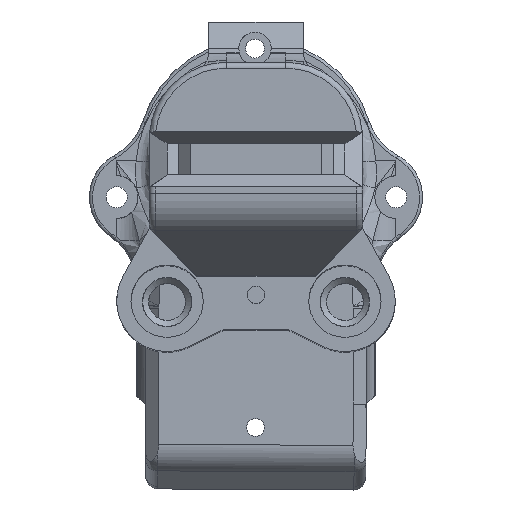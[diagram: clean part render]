
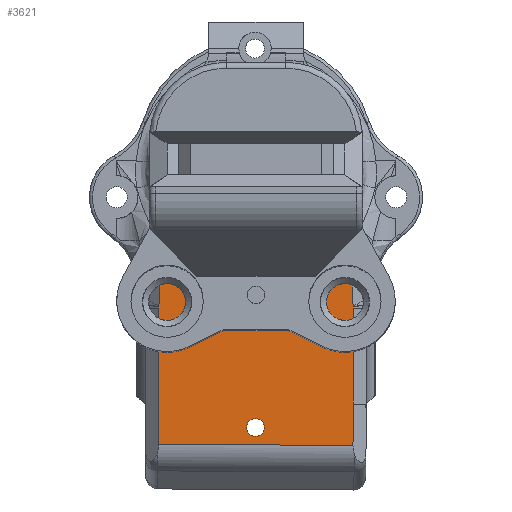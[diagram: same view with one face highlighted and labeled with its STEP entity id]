
A CAD part, top view. The second image highlights one B-rep face of the part: STEP entity #3621.
In plain terms, the highlighted planar face has unit normal (0, 0, 1).
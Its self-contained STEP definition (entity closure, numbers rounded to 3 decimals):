
#112=FACE_BOUND('',#821,.T.);
#175=B_SPLINE_CURVE_WITH_KNOTS('',3,(#6398,#6399,#6400,#6401),
 .UNSPECIFIED.,.F.,.F.,(4,4),(-0.044,-0.042),
 .UNSPECIFIED.);
#177=B_SPLINE_CURVE_WITH_KNOTS('',3,(#6423,#6424,#6425,#6426),
 .UNSPECIFIED.,.F.,.F.,(4,4),(-0.694,-0.651),
 .UNSPECIFIED.);
#180=B_SPLINE_CURVE_WITH_KNOTS('',3,(#6466,#6467,#6468,#6469),
 .UNSPECIFIED.,.F.,.F.,(4,4),(-0.651,-0.65),
 .UNSPECIFIED.);
#182=B_SPLINE_CURVE_WITH_KNOTS('',3,(#6493,#6494,#6495,#6496),
 .UNSPECIFIED.,.F.,.F.,(4,4),(-0.65,-0.647),
 .UNSPECIFIED.);
#186=B_SPLINE_CURVE_WITH_KNOTS('',3,(#6532,#6533,#6534,#6535),
 .UNSPECIFIED.,.F.,.F.,(4,4),(-0.042,0.),
 .UNSPECIFIED.);
#188=B_SPLINE_CURVE_WITH_KNOTS('',3,(#6556,#6557,#6558,#6559),
 .UNSPECIFIED.,.F.,.F.,(4,4),(-0.047,-0.044),
 .UNSPECIFIED.);
#328=CIRCLE('',#3819,1.5);
#586=FACE_OUTER_BOUND('',#820,.T.);
#820=EDGE_LOOP('',(#3069,#3070,#3071,#3072,#3073,#3074,#3075,#3076,#3077,
#3078,#3079,#3080,#3081,#3082,#3083,#3084,#3085));
#821=EDGE_LOOP('',(#3086));
#951=LINE('',#5216,#1210);
#1035=LINE('',#5697,#1294);
#1038=LINE('',#5717,#1297);
#1088=LINE('',#6062,#1347);
#1091=LINE('',#6068,#1350);
#1092=LINE('',#6101,#1351);
#1094=LINE('',#6105,#1353);
#1108=LINE('',#6431,#1367);
#1111=LINE('',#6448,#1370);
#1113=LINE('',#6509,#1372);
#1126=LINE('',#6928,#1385);
#1210=VECTOR('',#4181,10.);
#1294=VECTOR('',#4415,10.);
#1297=VECTOR('',#4426,10.);
#1347=VECTOR('',#4620,10.);
#1350=VECTOR('',#4625,10.);
#1351=VECTOR('',#4626,10.);
#1353=VECTOR('',#4630,10.);
#1367=VECTOR('',#4702,10.);
#1370=VECTOR('',#4707,10.);
#1372=VECTOR('',#4711,10.);
#1385=VECTOR('',#4798,10.);
#1474=VERTEX_POINT('',#5213);
#1475=VERTEX_POINT('',#5215);
#1559=VERTEX_POINT('',#5696);
#1564=VERTEX_POINT('',#5716);
#1565=VERTEX_POINT('',#5720);
#1636=VERTEX_POINT('',#6059);
#1637=VERTEX_POINT('',#6061);
#1638=VERTEX_POINT('',#6065);
#1639=VERTEX_POINT('',#6067);
#1641=VERTEX_POINT('',#6086);
#1642=VERTEX_POINT('',#6103);
#1672=VERTEX_POINT('',#6386);
#1674=VERTEX_POINT('',#6396);
#1675=VERTEX_POINT('',#6418);
#1677=VERTEX_POINT('',#6430);
#1680=VERTEX_POINT('',#6446);
#1681=VERTEX_POINT('',#6465);
#1683=VERTEX_POINT('',#6492);
#1830=EDGE_CURVE('',#1474,#1475,#951,.T.);
#1962=EDGE_CURVE('',#1475,#1559,#1035,.T.);
#1969=EDGE_CURVE('',#1559,#1564,#1038,.T.);
#1971=EDGE_CURVE('',#1565,#1565,#328,.T.);
#2074=EDGE_CURVE('',#1637,#1636,#1088,.T.);
#2077=EDGE_CURVE('',#1639,#1638,#1091,.T.);
#2080=EDGE_CURVE('',#1636,#1641,#1092,.T.);
#2082=EDGE_CURVE('',#1642,#1638,#1094,.F.);
#2128=EDGE_CURVE('',#1674,#1672,#175,.T.);
#2130=EDGE_CURVE('',#1564,#1675,#177,.T.);
#2132=EDGE_CURVE('',#1637,#1677,#1108,.T.);
#2137=EDGE_CURVE('',#1680,#1474,#1111,.T.);
#2138=EDGE_CURVE('',#1675,#1681,#180,.T.);
#2141=EDGE_CURVE('',#1681,#1683,#182,.T.);
#2144=EDGE_CURVE('',#1683,#1642,#1113,.T.);
#2147=EDGE_CURVE('',#1672,#1680,#186,.T.);
#2149=EDGE_CURVE('',#1677,#1674,#188,.T.);
#2191=EDGE_CURVE('',#1641,#1639,#1126,.T.);
#3069=ORIENTED_EDGE('',*,*,#1962,.F.);
#3070=ORIENTED_EDGE('',*,*,#1830,.F.);
#3071=ORIENTED_EDGE('',*,*,#2137,.F.);
#3072=ORIENTED_EDGE('',*,*,#2147,.F.);
#3073=ORIENTED_EDGE('',*,*,#2128,.F.);
#3074=ORIENTED_EDGE('',*,*,#2149,.F.);
#3075=ORIENTED_EDGE('',*,*,#2132,.F.);
#3076=ORIENTED_EDGE('',*,*,#2074,.T.);
#3077=ORIENTED_EDGE('',*,*,#2080,.T.);
#3078=ORIENTED_EDGE('',*,*,#2191,.T.);
#3079=ORIENTED_EDGE('',*,*,#2077,.T.);
#3080=ORIENTED_EDGE('',*,*,#2082,.F.);
#3081=ORIENTED_EDGE('',*,*,#2144,.F.);
#3082=ORIENTED_EDGE('',*,*,#2141,.F.);
#3083=ORIENTED_EDGE('',*,*,#2138,.F.);
#3084=ORIENTED_EDGE('',*,*,#2130,.F.);
#3085=ORIENTED_EDGE('',*,*,#1969,.F.);
#3086=ORIENTED_EDGE('',*,*,#1971,.T.);
#3458=PLANE('',#3959);
#3621=ADVANCED_FACE('',(#586,#112),#3458,.T.);
#3819=AXIS2_PLACEMENT_3D('',#5721,#4430,#4431);
#3959=AXIS2_PLACEMENT_3D('',#6927,#4796,#4797);
#4181=DIRECTION('',(-0.006,-1.,0.));
#4415=DIRECTION('',(-1.,0.006,0.));
#4426=DIRECTION('',(0.,1.,0.));
#4430=DIRECTION('center_axis',(0.,0.,
-1.));
#4431=DIRECTION('ref_axis',(-1.,0.,0.));
#4620=DIRECTION('',(-0.707,-0.707,0.));
#4625=DIRECTION('',(-1.,0.,0.));
#4626=DIRECTION('',(-1.,0.,0.));
#4630=DIRECTION('',(-0.707,0.707,0.));
#4702=DIRECTION('',(0.046,-0.999,0.));
#4707=DIRECTION('',(0.,-1.,0.));
#4711=DIRECTION('',(0.046,0.999,0.));
#4796=DIRECTION('center_axis',(0.,0.,
1.));
#4797=DIRECTION('ref_axis',(0.,-1.,0.));
#4798=DIRECTION('',(-1.,0.,0.));
#5213=CARTESIAN_POINT('',(-29.3,-95.531,24.3));
#5215=CARTESIAN_POINT('',(-29.338,-102.511,24.3));
#5216=CARTESIAN_POINT('',(-29.377,-109.502,24.3));
#5696=CARTESIAN_POINT('',(-62.1,-102.331,24.3));
#5697=CARTESIAN_POINT('',(-27.197,-102.523,24.3));
#5716=CARTESIAN_POINT('',(-62.1,-79.356,24.3));
#5717=CARTESIAN_POINT('',(-62.1,-113.111,24.3));
#5720=CARTESIAN_POINT('',(-44.278,-99.475,24.3));
#5721=CARTESIAN_POINT('Origin',(-45.778,-99.475,24.3));
#6059=CARTESIAN_POINT('',(-35.7,-74.2,24.3));
#6061=CARTESIAN_POINT('',(-29.806,-68.306,24.3));
#6062=CARTESIAN_POINT('',(-49.214,-87.714,24.3));
#6065=CARTESIAN_POINT('',(-55.7,-74.2,24.3));
#6067=CARTESIAN_POINT('',(-54.932,-74.2,24.3));
#6068=CARTESIAN_POINT('',(-32.963,-74.2,24.3));
#6086=CARTESIAN_POINT('',(-36.468,-74.2,24.3));
#6101=CARTESIAN_POINT('',(-32.963,-74.2,24.3));
#6103=CARTESIAN_POINT('',(-61.594,-68.306,24.3));
#6105=CARTESIAN_POINT('',(-49.721,-80.179,24.3));
#6386=CARTESIAN_POINT('',(-29.313,-79.07,24.3));
#6396=CARTESIAN_POINT('',(-29.315,-79.049,24.3));
#6398=CARTESIAN_POINT('Ctrl Pts',(-29.315,-79.049,24.3));
#6399=CARTESIAN_POINT('Ctrl Pts',(-29.314,-79.056,24.3));
#6400=CARTESIAN_POINT('Ctrl Pts',(-29.314,-79.063,24.3));
#6401=CARTESIAN_POINT('Ctrl Pts',(-29.313,-79.07,24.3));
#6418=CARTESIAN_POINT('',(-62.087,-79.07,24.3));
#6423=CARTESIAN_POINT('Ctrl Pts',(-62.1,-79.356,24.3));
#6424=CARTESIAN_POINT('Ctrl Pts',(-62.1,-79.261,24.3));
#6425=CARTESIAN_POINT('Ctrl Pts',(-62.096,-79.165,24.3));
#6426=CARTESIAN_POINT('Ctrl Pts',(-62.087,-79.07,24.3));
#6430=CARTESIAN_POINT('',(-29.318,-79.02,24.3));
#6431=CARTESIAN_POINT('',(-28.908,-87.994,24.3));
#6446=CARTESIAN_POINT('',(-29.3,-79.356,24.3));
#6448=CARTESIAN_POINT('',(-29.3,-101.485,24.3));
#6465=CARTESIAN_POINT('',(-62.085,-79.049,24.3));
#6466=CARTESIAN_POINT('Ctrl Pts',(-62.087,-79.07,24.3));
#6467=CARTESIAN_POINT('Ctrl Pts',(-62.086,-79.063,24.3));
#6468=CARTESIAN_POINT('Ctrl Pts',(-62.086,-79.056,24.3));
#6469=CARTESIAN_POINT('Ctrl Pts',(-62.085,-79.049,24.3));
#6492=CARTESIAN_POINT('',(-62.082,-79.021,24.3));
#6493=CARTESIAN_POINT('Ctrl Pts',(-62.085,-79.049,24.3));
#6494=CARTESIAN_POINT('Ctrl Pts',(-62.084,-79.04,24.3));
#6495=CARTESIAN_POINT('Ctrl Pts',(-62.083,-79.03,24.3));
#6496=CARTESIAN_POINT('Ctrl Pts',(-62.082,-79.021,24.3));
#6509=CARTESIAN_POINT('',(-62.823,-95.258,24.3));
#6532=CARTESIAN_POINT('Ctrl Pts',(-29.313,-79.07,24.3));
#6533=CARTESIAN_POINT('Ctrl Pts',(-29.304,-79.165,24.3));
#6534=CARTESIAN_POINT('Ctrl Pts',(-29.3,-79.261,24.3));
#6535=CARTESIAN_POINT('Ctrl Pts',(-29.3,-79.356,24.3));
#6556=CARTESIAN_POINT('Ctrl Pts',(-29.318,-79.02,24.3));
#6557=CARTESIAN_POINT('Ctrl Pts',(-29.317,-79.03,24.3));
#6558=CARTESIAN_POINT('Ctrl Pts',(-29.316,-79.04,24.3));
#6559=CARTESIAN_POINT('Ctrl Pts',(-29.315,-79.049,24.3));
#6927=CARTESIAN_POINT('Origin',(-27.1,-74.288,24.3));
#6928=CARTESIAN_POINT('',(-32.963,-74.2,24.3));
